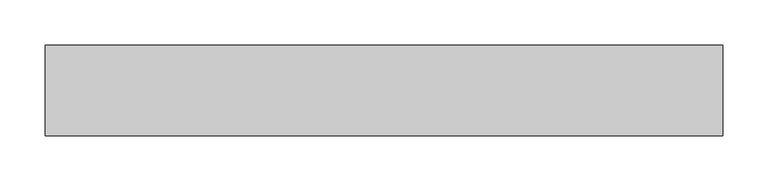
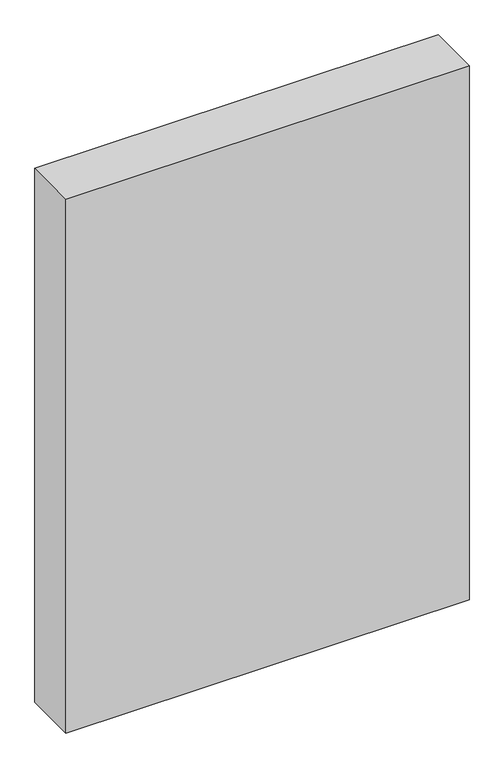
"""IFC4 building model written with IfcOpenShell, lengths in millimetres: proxy geometry, 600x900mm Manway Cover-D."""

from ifc_helpers import new_model, si_unit, frame, origin, place, context, project, spatial, polyline, outline, extrude, source, transform, mapped, element, save


def generic_models_efd85da4(model_context):
    return source(origin(), model_context, "Body", "SweptSolid", [
        extrude(outline(polyline([(-375.0, 0.0), (-375.0, 100.0), (375.0, 100.0), (375.0, 0.0), (-375.0, 0.0)])), frame((0.0, 0.0, -525.0), z_axis=(0.0, 0.0, 1.0), x_axis=(1.0, 0.0, 0.0)), (0.0, 0.0, 1.0), 1050.0),
    ])


if __name__ == "__main__":
    model = new_model("IFC4")
    model_context = context("Model", 3, world=origin())
    ifc_project = project(units=[si_unit("LENGTHUNIT", "METRE", prefix="MILLI")], contexts=[model_context])
    site = spatial("IfcSite", under=ifc_project)
    building = spatial("IfcBuilding", under=site)
    placement = place(None, origin())
    generic_models_shape = generic_models_efd85da4(model_context)
    element("IfcBuildingElementProxy", 1, Name="600x900mm Manway Cover-D", ObjectType="600x900mm Manway Cover-D", at=placement, inside=building, context=model_context, shape_type="MappedRepresentation", body=[
        mapped(generic_models_shape, transform((0.0, 0.0, 0.0), x_axis=(1.0, 0.0, 0.0), y_axis=(0.0, 1.0, 0.0), z_axis=(0.0, 0.0, 1.0))),
    ])
    save(model, "model.ifc")
